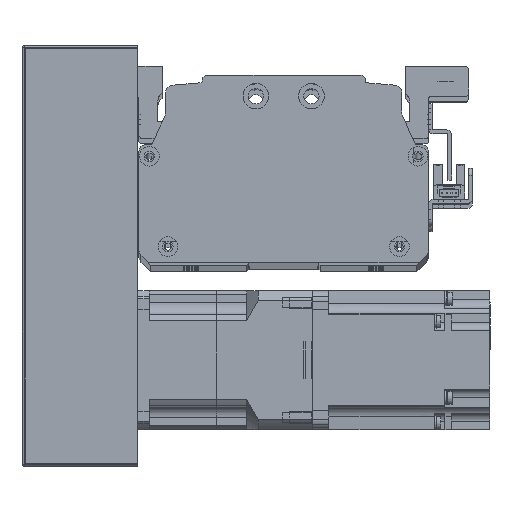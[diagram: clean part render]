
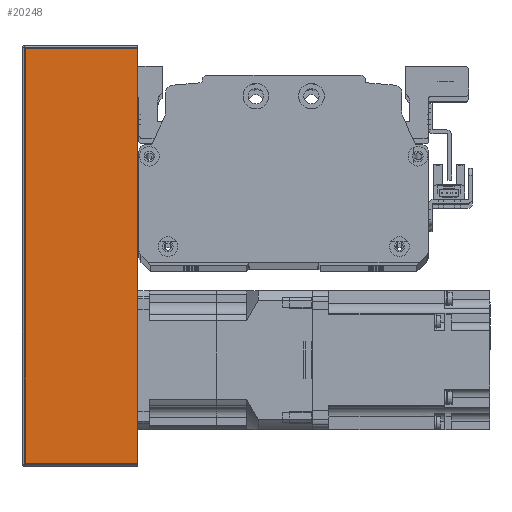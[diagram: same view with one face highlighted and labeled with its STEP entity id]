
A CAD part, top view. The second image highlights one B-rep face of the part: STEP entity #20248.
In plain terms, the highlighted planar face has unit normal (0, 0, 1) as drawn and (0, 1, 0) by its records, which use the part's own axes.
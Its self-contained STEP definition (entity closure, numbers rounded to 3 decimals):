
#609=PLANE('',#22288);
#1812=LINE('',#33409,#3436);
#1829=LINE('',#33463,#3453);
#1834=LINE('',#33487,#3458);
#1853=LINE('',#33550,#3477);
#3436=VECTOR('',#27035,10.);
#3453=VECTOR('',#27088,10.);
#3458=VECTOR('',#27125,10.);
#3477=VECTOR('',#27208,10.);
#5924=FACE_OUTER_BOUND('',#7440,.T.);
#7440=EDGE_LOOP('',(#17491,#17492,#17493,#17494));
#10353=VERTEX_POINT('',#33406);
#10354=VERTEX_POINT('',#33408);
#10372=VERTEX_POINT('',#33460);
#10373=VERTEX_POINT('',#33462);
#12828=EDGE_CURVE('',#10353,#10354,#1812,.T.);
#12856=EDGE_CURVE('',#10372,#10373,#1829,.T.);
#12870=EDGE_CURVE('',#10354,#10372,#1834,.T.);
#12901=EDGE_CURVE('',#10373,#10353,#1853,.T.);
#17491=ORIENTED_EDGE('',*,*,#12856,.F.);
#17492=ORIENTED_EDGE('',*,*,#12870,.F.);
#17493=ORIENTED_EDGE('',*,*,#12828,.F.);
#17494=ORIENTED_EDGE('',*,*,#12901,.F.);
#20248=ADVANCED_FACE('',(#5924),#609,.T.);
#22288=AXIS2_PLACEMENT_3D('',#33549,#27206,#27207);
#27035=DIRECTION('',(-1.,0.,0.));
#27088=DIRECTION('',(1.,0.,0.));
#27125=DIRECTION('',(0.,0.,-1.));
#27206=DIRECTION('center_axis',(0.,1.,0.));
#27207=DIRECTION('ref_axis',(-1.,0.,0.));
#27208=DIRECTION('',(0.,0.,1.));
#33406=CARTESIAN_POINT('',(90.,38.,25.));
#33408=CARTESIAN_POINT('',(-90.,38.,25.));
#33409=CARTESIAN_POINT('',(-91.,38.,25.));
#33460=CARTESIAN_POINT('',(-90.,38.,-24.));
#33462=CARTESIAN_POINT('',(90.,38.,-24.));
#33463=CARTESIAN_POINT('',(45.5,38.,-24.));
#33487=CARTESIAN_POINT('',(-90.,38.,0.));
#33549=CARTESIAN_POINT('Origin',(91.,38.,0.));
#33550=CARTESIAN_POINT('',(90.,38.,0.));
